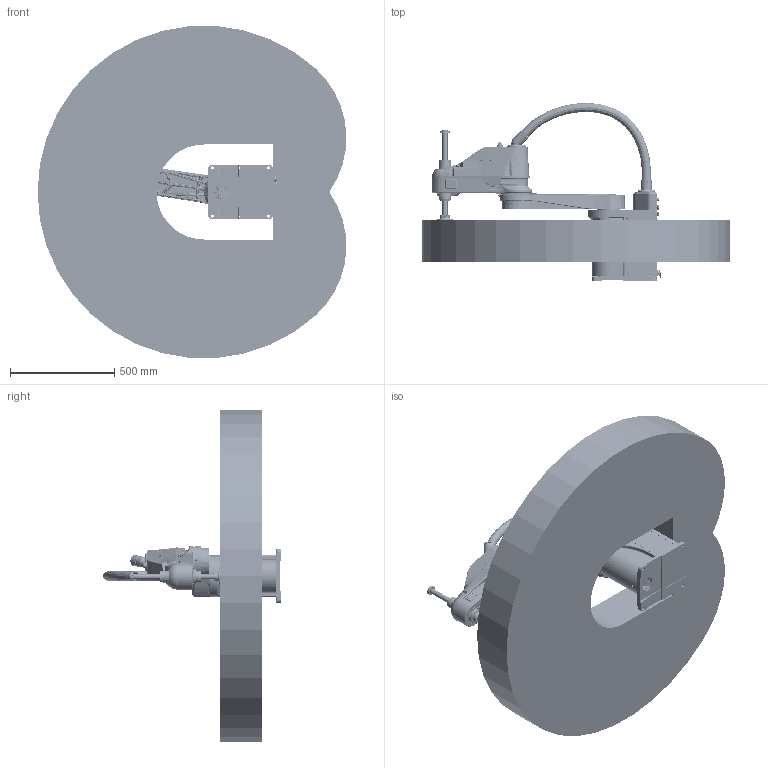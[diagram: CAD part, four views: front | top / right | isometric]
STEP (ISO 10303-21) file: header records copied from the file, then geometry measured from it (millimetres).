
FILE_DESCRIPTION (( 'STEP AP203' ), '1' );
FILE_NAME ('AH10-0800-0204-2000_V1.2.0 .STEP', '2022-01-12T02:39:51', ( '' ), ( '' ), 'SwSTEP 2.0', 'SolidWorks 2017', '' );
FILE_SCHEMA (( 'CONFIG_CONTROL_DESIGN' ));
Products named in the file (7): AH10-0800-0204-2000-T4-V1.2.0; AH10-0800-0204-2000-T5-V1.2.0; AH10-0800-0204-2000-T1-V1.2.0; AH10-0800-0204-2000-T6_V1.2.0; AH10-0800-0204-2000-T3-V1.2.0; AH10-0800-0204-2000_V1.2.0 ; AH10-0800-0204-2000-T2-V1.2.0
Assembly tree (6 placements, depth 2):
  AH10-0800-0204-2000_V1.2.0 
    AH10-0800-0204-2000-T1-V1.2.0
    AH10-0800-0204-2000-T3-V1.2.0
    AH10-0800-0204-2000-T2-V1.2.0
    AH10-0800-0204-2000-T4-V1.2.0
    AH10-0800-0204-2000-T5-V1.2.0
    AH10-0800-0204-2000-T6_V1.2.0
Bounding box: 1483.99 x 854.49 x 1595.53 mm (x, y, z)
Volume: 343668058.4 mm3; surface area: 8148824.8 mm2
Topology: 93 solids, 495 shells, 22947 faces, 63460 edges, 40852 vertices
Faces by surface type: plane 9848, cylinder 6766, bspline 3286, cone 1987, torus 617, sphere 443
Entity records: 933223 total; most frequent: CARTESIAN_POINT 380525, ORIENTED_EDGE 120779, DIRECTION 101952, EDGE_CURVE 62661, VERTEX_POINT 40830, AXIS2_PLACEMENT_3D 34836, LINE 32280, VECTOR 32280
